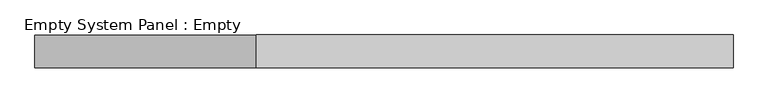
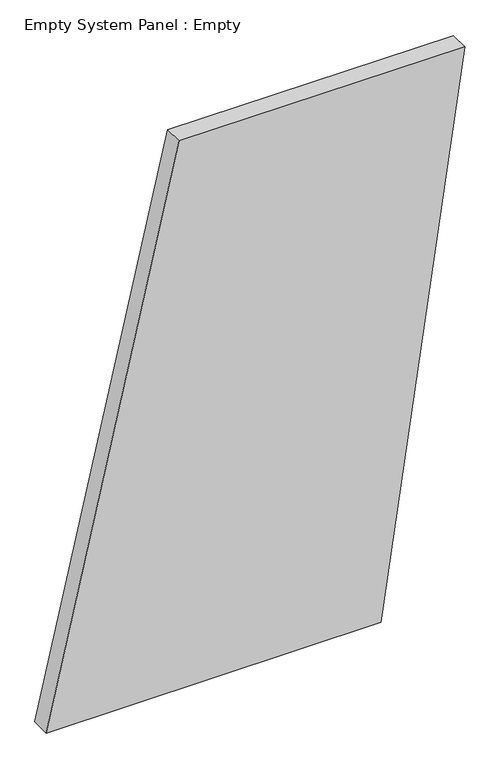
"""IFC4 building model written with IfcOpenShell, lengths in millimetres: plate geometry, Empty System Panel : Empty."""

from ifc_helpers import new_model, si_unit, frame, origin, place, context, project, spatial, polyline, outline, extrude, source, transform, mapped, element, save


def empty_system_panel_empty_86a8a756(model_context):
    return source(origin(), model_context, "Body", "SweptSolid", [
        extrude(outline(polyline([(0.0, -1083.2200195), (0.0, 648.0248025), (2991.9788482, 1083.2200195), (2996.237753, -396.2400044), (0.0, -1083.2200195)])), frame((0.0, -50.8, 0.0), z_axis=(0.0, 1.0, 0.0), x_axis=(0.0, 0.0, 1.0)), (0.0, 0.0, 1.0), 101.6),
    ])


if __name__ == "__main__":
    model = new_model("IFC4")
    model_context = context("Model", 3, world=origin())
    ifc_project = project(units=[si_unit("LENGTHUNIT", "METRE", prefix="MILLI")], contexts=[model_context])
    site = spatial("IfcSite", under=ifc_project)
    building = spatial("IfcBuilding", under=site)
    placement = place(None, origin())
    empty_system_panel_empty_shape = empty_system_panel_empty_86a8a756(model_context)
    element("IfcPlate", 1, ObjectType="Empty System Panel : Empty", at=placement, inside=building, context=model_context, shape_type="MappedRepresentation", body=[
        mapped(empty_system_panel_empty_shape, transform((0.0, 0.0, 0.0), x_axis=(1.0, 0.0, 0.0), y_axis=(0.0, 1.0, 0.0), z_axis=(0.0, 0.0, 1.0))),
    ])
    save(model, "model.ifc")
